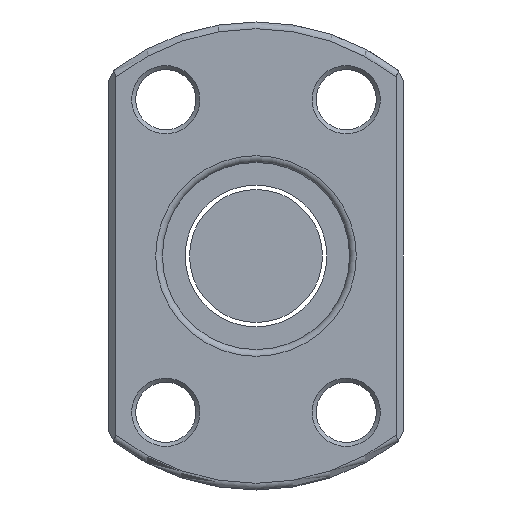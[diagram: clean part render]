
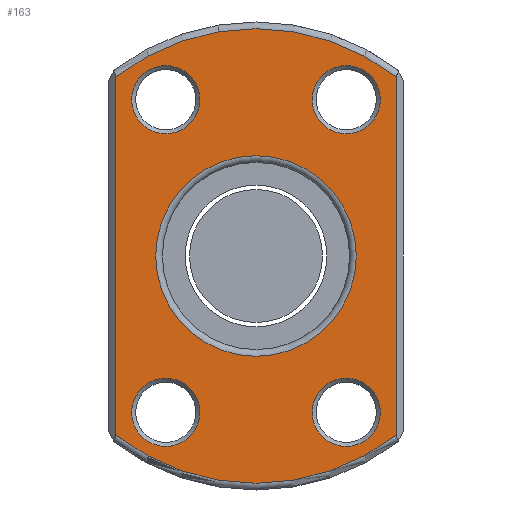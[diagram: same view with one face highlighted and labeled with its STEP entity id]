
A CAD part, front view. The second image highlights one B-rep face of the part: STEP entity #163.
In plain terms, the highlighted planar face has unit normal (0, -1, 0).
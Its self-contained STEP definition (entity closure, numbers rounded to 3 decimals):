
#54=LINE('',#973,#78);
#55=LINE('',#977,#79);
#78=VECTOR('',#792,1.);
#79=VECTOR('',#795,1.);
#126=PLANE('',#694);
#163=ADVANCED_FACE('',(#218,#219,#220,#221,#222,#223),#126,.T.);
#218=FACE_BOUND('',#278,.T.);
#219=FACE_BOUND('',#279,.T.);
#220=FACE_BOUND('',#280,.T.);
#221=FACE_BOUND('',#281,.T.);
#222=FACE_BOUND('',#282,.T.);
#223=FACE_BOUND('',#283,.T.);
#278=EDGE_LOOP('',(#354));
#279=EDGE_LOOP('',(#355));
#280=EDGE_LOOP('',(#356));
#281=EDGE_LOOP('',(#357));
#282=EDGE_LOOP('',(#358));
#283=EDGE_LOOP('',(#359,#360,#361,#362));
#354=ORIENTED_EDGE('',*,*,#567,.T.);
#355=ORIENTED_EDGE('',*,*,#568,.T.);
#356=ORIENTED_EDGE('',*,*,#569,.T.);
#357=ORIENTED_EDGE('',*,*,#570,.T.);
#358=ORIENTED_EDGE('',*,*,#571,.T.);
#359=ORIENTED_EDGE('',*,*,#572,.T.);
#360=ORIENTED_EDGE('',*,*,#573,.T.);
#361=ORIENTED_EDGE('',*,*,#574,.T.);
#362=ORIENTED_EDGE('',*,*,#575,.T.);
#506=VERTEX_POINT('',#961);
#507=VERTEX_POINT('',#963);
#508=VERTEX_POINT('',#965);
#509=VERTEX_POINT('',#967);
#510=VERTEX_POINT('',#969);
#511=VERTEX_POINT('',#971);
#512=VERTEX_POINT('',#972);
#513=VERTEX_POINT('',#974);
#514=VERTEX_POINT('',#976);
#567=EDGE_CURVE('',#506,#506,#644,.T.);
#568=EDGE_CURVE('',#507,#507,#645,.T.);
#569=EDGE_CURVE('',#508,#508,#646,.T.);
#570=EDGE_CURVE('',#509,#509,#647,.T.);
#571=EDGE_CURVE('',#510,#510,#648,.T.);
#572=EDGE_CURVE('',#511,#512,#649,.T.);
#573=EDGE_CURVE('',#512,#513,#54,.T.);
#574=EDGE_CURVE('',#513,#514,#650,.T.);
#575=EDGE_CURVE('',#514,#511,#55,.T.);
#644=CIRCLE('',#687,2.55);
#645=CIRCLE('',#688,2.55);
#646=CIRCLE('',#689,2.55);
#647=CIRCLE('',#690,2.55);
#648=CIRCLE('',#691,7.5);
#649=CIRCLE('',#692,17.);
#650=CIRCLE('',#693,17.);
#687=AXIS2_PLACEMENT_3D('',#960,#780,#781);
#688=AXIS2_PLACEMENT_3D('',#962,#782,#783);
#689=AXIS2_PLACEMENT_3D('',#964,#784,#785);
#690=AXIS2_PLACEMENT_3D('',#966,#786,#787);
#691=AXIS2_PLACEMENT_3D('',#968,#788,#789);
#692=AXIS2_PLACEMENT_3D('',#970,#790,#791);
#693=AXIS2_PLACEMENT_3D('',#975,#793,#794);
#694=AXIS2_PLACEMENT_3D('',#978,#796,#797);
#780=DIRECTION('',(0.,1.,0.));
#781=DIRECTION('',(0.,0.,-1.));
#782=DIRECTION('',(0.,1.,0.));
#783=DIRECTION('',(0.,0.,-1.));
#784=DIRECTION('',(0.,1.,0.));
#785=DIRECTION('',(0.,0.,-1.));
#786=DIRECTION('',(0.,1.,0.));
#787=DIRECTION('',(0.,0.,-1.));
#788=DIRECTION('',(0.,1.,0.));
#789=DIRECTION('',(0.,0.,-1.));
#790=DIRECTION('',(0.,-1.,0.));
#791=DIRECTION('',(0.,0.,-1.));
#792=DIRECTION('',(0.,0.,1.));
#793=DIRECTION('',(0.,-1.,0.));
#794=DIRECTION('',(0.,0.,-1.));
#795=DIRECTION('',(0.,0.,-1.));
#796=DIRECTION('',(0.,-1.,0.));
#797=DIRECTION('',(0.,0.,-1.));
#960=CARTESIAN_POINT('',(-6.75,0.,-11.691));
#961=CARTESIAN_POINT('',(-6.75,0.,-14.241));
#962=CARTESIAN_POINT('',(6.75,0.,-11.691));
#963=CARTESIAN_POINT('',(6.75,0.,-14.241));
#964=CARTESIAN_POINT('',(-6.75,0.,11.691));
#965=CARTESIAN_POINT('',(-6.75,0.,9.141));
#966=CARTESIAN_POINT('',(6.75,0.,11.691));
#967=CARTESIAN_POINT('',(6.75,0.,9.141));
#968=CARTESIAN_POINT('',(0.,0.,0.));
#969=CARTESIAN_POINT('',(0.,0.,-7.5));
#970=CARTESIAN_POINT('',(0.,0.,0.));
#971=CARTESIAN_POINT('',(-10.5,0.,-13.37));
#972=CARTESIAN_POINT('',(10.5,0.,-13.37));
#973=CARTESIAN_POINT('',(10.5,0.,12.961));
#974=CARTESIAN_POINT('',(10.5,0.,13.37));
#975=CARTESIAN_POINT('',(0.,0.,0.));
#976=CARTESIAN_POINT('',(-10.5,0.,13.37));
#977=CARTESIAN_POINT('',(-10.5,0.,-12.961));
#978=CARTESIAN_POINT('',(0.,0.,0.));
